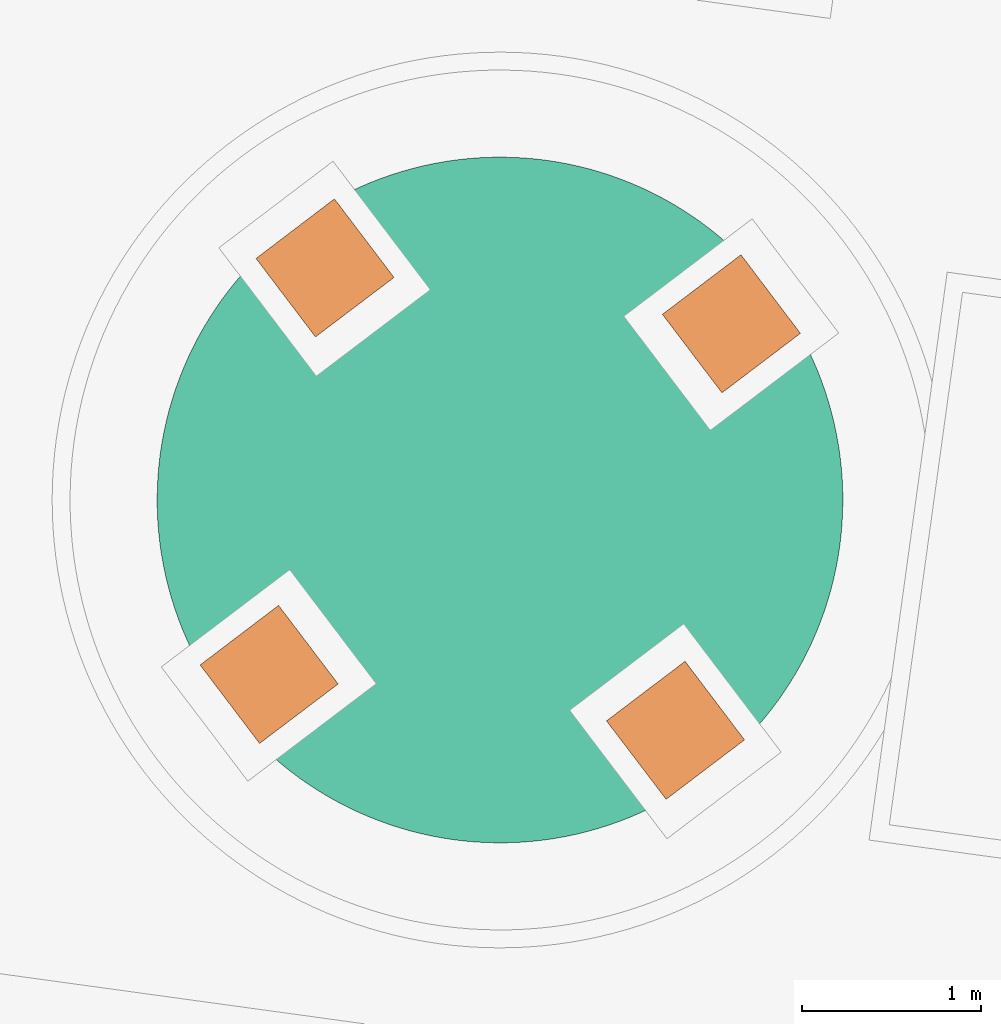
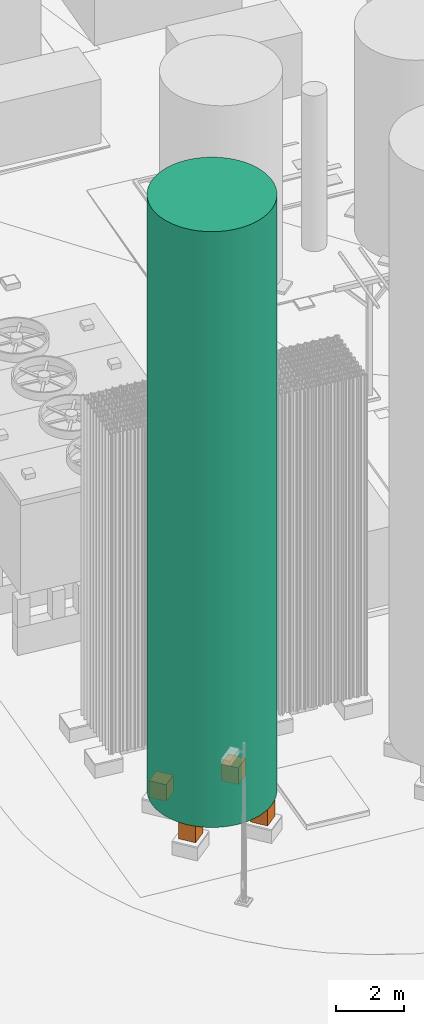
# Not in any storey, part 31 of 75: 4 proxies, 1 tank.
"""IFC4 model written with IfcOpenShell, lengths in metres."""

from ifc_helpers import new_model, si_unit, direction, origin_with_axes, place, context, subcontext, project, spatial, triangles, element, aggregate, save


model = new_model("IFC4")

# Units and contexts
model_context = context("Model", 3, precision=1e-05, world=origin_with_axes(), true_north=direction((0.0, 1.0)))
body_context = subcontext(model_context, "Body", "Model", "MODEL_VIEW")
ifc_project = project(units=[si_unit("AREAUNIT", "SQUARE_METRE"), si_unit("VOLUMEUNIT", "CUBIC_METRE"), si_unit("LENGTHUNIT", "METRE")], contexts=[model_context])

# Site
site_placement = place(None, origin_with_axes())
site = spatial("IfcSite", under=ifc_project, at=site_placement, Name="Parcela industrial Jinhong")

# Tank, proxies
tank_placement = place(site_placement, origin_with_axes())
tank = element("IfcTank", 1, at=tank_placement, inside=site, Name="Depósito de nitrógeno líquido SV1801A · Envolvente cilíndrica del depósito", PredefinedType="STORAGE", context=body_context, shape_type="Tessellation", body=[
    triangles([(38.273147, 32.253326, 23.627), (38.252037, 32.129869, 23.627), (38.263602, 32.191425, 23.627), (38.252037, 32.129869, 2.2), (38.273147, 32.253326, 2.2), (38.263602, 32.191425, 2.2), (38.286138, 32.377899, 23.627), (38.280662, 32.315506, 23.627), (38.280662, 32.315506, 2.2), (38.286138, 32.377899, 2.2), (38.290953, 32.503055, 23.627), (38.289569, 32.440438, 23.627), (38.289569, 32.440438, 2.2), (38.290953, 32.503055, 2.2), (38.287572, 32.628258, 23.627), (38.290287, 32.565684, 23.627), (38.290287, 32.565684, 2.2), (38.287572, 32.628258, 2.2), (38.27601, 32.752972, 23.627), (38.282811, 32.69071, 23.627), (38.282811, 32.69071, 2.2), (38.27601, 32.752972, 2.2), (38.256315, 32.876663, 23.627), (38.267175, 32.814978, 23.627), (38.267175, 32.814978, 2.2), (38.256315, 32.876663, 2.2), (38.228574, 32.9988, 23.627), (38.243444, 32.937958, 23.627), (38.243444, 32.937958, 2.2), (38.228574, 32.9988, 2.2), (38.192903, 33.118862, 23.627), (38.211721, 33.059123, 23.627), (38.211721, 33.059123, 2.2), (38.192903, 33.118862, 2.2), (38.149457, 33.236334, 23.627), (38.172141, 33.177954, 23.627), (38.172141, 33.177954, 2.2), (38.149457, 33.236334, 2.2), (38.09842, 33.350713, 23.627), (38.124874, 33.293941, 23.627), (38.124874, 33.293941, 2.2), (38.09842, 33.350713, 2.2), (38.040012, 33.461509, 23.627), (38.070123, 33.406588, 23.627), (38.070123, 33.406588, 2.2), (38.040012, 33.461509, 2.2), (37.974483, 33.568247, 23.627), (38.008121, 33.515414, 23.627), (38.008121, 33.515414, 2.2), (37.974483, 33.568247, 2.2), (37.902113, 33.670471, 23.627), (37.939134, 33.619951, 23.627), (37.939134, 33.619951, 2.2), (37.902113, 33.670471, 2.2), (37.823212, 33.767743, 23.627), (37.863458, 33.719753, 23.627), (37.863458, 33.719753, 2.2), (37.823212, 33.767743, 2.2), (37.738118, 33.859647, 23.627), (37.781417, 33.814391, 23.627), (37.781417, 33.814391, 2.2), (37.738118, 33.859647, 2.2), (37.647195, 33.945788, 23.627), (37.693361, 33.903462, 23.627), (37.693361, 33.903462, 2.2), (37.647195, 33.945788, 2.2), (37.550833, 34.025799, 23.627), (37.599669, 33.986582, 23.627), (37.599669, 33.986582, 2.2), (37.550833, 34.025799, 2.2), (37.449445, 34.099335, 23.627), (37.500741, 34.063396, 23.627), (37.500741, 34.063396, 2.2), (37.449445, 34.099335, 2.2), (37.343464, 34.166083, 23.627), (37.397001, 34.133576, 23.627), (37.397001, 34.133576, 2.2), (37.343464, 34.166083, 2.2), (37.233345, 34.225757, 23.627), (37.288893, 34.196821, 23.627), (37.288893, 34.196821, 2.2), (37.233345, 34.225757, 2.2), (37.119559, 34.278101, 23.627), (37.17688, 34.25286, 23.627), (37.17688, 34.25286, 2.2), (37.119559, 34.278101, 2.2), (37.002592, 34.32289, 23.627), (37.061442, 34.301452, 23.627), (37.061442, 34.301452, 2.2), (37.002592, 34.32289, 2.2), (36.882947, 34.359934, 23.627), (36.943073, 34.342391, 23.627), (36.943073, 34.342391, 2.2), (36.882947, 34.359934, 2.2), (36.761135, 34.389073, 23.627), (36.82228, 34.3755, 23.627), (36.82228, 34.3755, 2.2), (36.761135, 34.389073, 2.2), (36.637678, 34.410183, 23.627), (36.699579, 34.400638, 23.627), (36.699579, 34.400638, 2.2), (36.637678, 34.410183, 2.2), (36.513105, 34.423174, 23.627), (36.575498, 34.417698, 23.627), (36.575498, 34.417698, 2.2), (36.513105, 34.423174, 2.2), (36.387949, 34.427989, 23.627), (36.450567, 34.426605, 23.627), (36.450567, 34.426605, 2.2), (36.387949, 34.427989, 2.2), (36.262746, 34.424608, 23.627), (36.32532, 34.427323, 23.627), (36.32532, 34.427323, 2.2), (36.262746, 34.424608, 2.2), (36.138032, 34.413046, 23.627), (36.200295, 34.419847, 23.627), (36.200295, 34.419847, 2.2), (36.138032, 34.413046, 2.2), (36.014342, 34.393352, 23.627), (36.076026, 34.404211, 23.627), (36.076026, 34.404211, 2.2), (36.014342, 34.393352, 2.2), (35.892204, 34.36561, 23.627), (35.953046, 34.38048, 23.627), (35.953046, 34.38048, 2.2), (35.892204, 34.36561, 2.2), (35.772142, 34.329939, 23.627), (35.831881, 34.348757, 23.627), (35.831881, 34.348757, 2.2), (35.772142, 34.329939, 2.2), (35.65467, 34.286493, 23.627), (35.713051, 34.309177, 23.627), (35.713051, 34.309177, 2.2), (35.65467, 34.286493, 2.2), (35.540292, 34.235456, 23.627), (35.597063, 34.26191, 23.627), (35.597063, 34.26191, 2.2), (35.540292, 34.235456, 2.2), (35.429496, 34.177048, 23.627), (35.484416, 34.207159, 23.627), (35.484416, 34.207159, 2.2), (35.429496, 34.177048, 2.2), (35.322757, 34.111519, 23.627), (35.37559, 34.145157, 23.627), (35.37559, 34.145157, 2.2), (35.322757, 34.111519, 2.2), (35.220533, 34.039149, 23.627), (35.271053, 34.07617, 23.627), (35.271053, 34.07617, 2.2), (35.220533, 34.039149, 2.2), (35.123261, 33.960248, 23.627), (35.171251, 34.000494, 23.627), (35.171251, 34.000494, 2.2), (35.123261, 33.960248, 2.2), (35.031357, 33.875154, 23.627), (35.076613, 33.918453, 23.627), (35.076613, 33.918453, 2.2), (35.031357, 33.875154, 2.2), (34.945216, 33.784231, 23.627), (34.987543, 33.830397, 23.627), (34.987543, 33.830397, 2.2), (34.945216, 33.784231, 2.2), (34.865206, 33.68787, 23.627), (34.904422, 33.736705, 23.627), (34.904422, 33.736705, 2.2), (34.865206, 33.68787, 2.2), (34.791669, 33.586481, 23.627), (34.827608, 33.637777, 23.627), (34.827608, 33.637777, 2.2), (34.791669, 33.586481, 2.2), (34.724921, 33.480501, 23.627), (34.757428, 33.534037, 23.627), (34.757428, 33.534037, 2.2), (34.724921, 33.480501, 2.2), (34.665247, 33.370381, 23.627), (34.694183, 33.425929, 23.627), (34.694183, 33.425929, 2.2), (34.665247, 33.370381, 2.2), (34.612904, 33.256595, 23.627), (34.638145, 33.313916, 23.627), (34.638145, 33.313916, 2.2), (34.612904, 33.256595, 2.2), (34.568114, 33.139628, 23.627), (34.589552, 33.198478, 23.627), (34.589552, 33.198478, 2.2), (34.568114, 33.139628, 2.2), (34.53107, 33.019983, 23.627), (34.548613, 33.080109, 23.627), (34.548613, 33.080109, 2.2), (34.53107, 33.019983, 2.2), (34.501931, 32.898171, 23.627), (34.515504, 32.959316, 23.627), (34.515504, 32.959316, 2.2), (34.501931, 32.898171, 2.2), (34.480821, 32.774715, 23.627), (34.490366, 32.836616, 23.627), (34.490366, 32.836616, 2.2), (34.480821, 32.774715, 2.2), (34.467831, 32.650141, 23.627), (34.473306, 32.712534, 23.627), (34.473306, 32.712534, 2.2), (34.467831, 32.650141, 2.2), (34.463015, 32.524985, 23.627), (34.464399, 32.587603, 23.627), (34.464399, 32.587603, 2.2), (34.463015, 32.524985, 2.2), (34.466396, 32.399782, 23.627), (34.463681, 32.462356, 23.627), (34.463681, 32.462356, 2.2), (34.466396, 32.399782, 2.2), (34.477958, 32.275069, 23.627), (34.471157, 32.337331, 23.627), (34.471157, 32.337331, 2.2), (34.477958, 32.275069, 2.2), (34.497653, 32.151378, 23.627), (34.486794, 32.213062, 23.627), (34.486794, 32.213062, 2.2), (34.497653, 32.151378, 2.2), (34.525394, 32.02924, 23.627), (34.510524, 32.090082, 23.627), (34.510524, 32.090082, 2.2), (34.525394, 32.02924, 2.2), (34.561065, 31.909178, 23.627), (34.542247, 31.968917, 23.627), (34.542247, 31.968917, 2.2), (34.561065, 31.909178, 2.2), (34.604511, 31.791707, 23.627), (34.581827, 31.850087, 23.627), (34.581827, 31.850087, 2.2), (34.604511, 31.791707, 2.2), (34.655548, 31.677328, 23.627), (34.629094, 31.7341, 23.627), (34.629094, 31.7341, 2.2), (34.655548, 31.677328, 2.2), (34.713956, 31.566532, 23.627), (34.683846, 31.621452, 23.627), (34.683846, 31.621452, 2.2), (34.713956, 31.566532, 2.2), (34.779485, 31.459793, 23.627), (34.745847, 31.512627, 23.627), (34.745847, 31.512627, 2.2), (34.779485, 31.459793, 2.2), (34.851856, 31.357569, 23.627), (34.814834, 31.408089, 23.627), (34.814834, 31.408089, 2.2), (34.851856, 31.357569, 2.2), (34.930756, 31.260297, 23.627), (34.89051, 31.308288, 23.627), (34.89051, 31.308288, 2.2), (34.930756, 31.260297, 2.2), (35.01585, 31.168394, 23.627), (34.972551, 31.213649, 23.627), (34.972551, 31.213649, 2.2), (35.01585, 31.168394, 2.2), (35.106773, 31.082252, 23.627), (35.060607, 31.124579, 23.627), (35.060607, 31.124579, 2.2), (35.106773, 31.082252, 2.2), (35.203135, 31.002242, 23.627), (35.154299, 31.041459, 23.627), (35.154299, 31.041459, 2.2), (35.203135, 31.002242, 2.2), (35.304523, 30.928705, 23.627), (35.253227, 30.964644, 23.627), (35.253227, 30.964644, 2.2), (35.304523, 30.928705, 2.2), (35.410504, 30.861957, 23.627), (35.356967, 30.894464, 23.627), (35.356967, 30.894464, 2.2), (35.410504, 30.861957, 2.2), (35.520623, 30.802284, 23.627), (35.465075, 30.83122, 23.627), (35.465075, 30.83122, 2.2), (35.520623, 30.802284, 2.2), (35.63441, 30.74994, 23.627), (35.577088, 30.775181, 23.627), (35.577088, 30.775181, 2.2), (35.63441, 30.74994, 2.2), (35.751376, 30.70515, 23.627), (35.692526, 30.726588, 23.627), (35.692526, 30.726588, 2.2), (35.751376, 30.70515, 2.2), (35.871021, 30.668107, 23.627), (35.810895, 30.68565, 23.627), (35.810895, 30.68565, 2.2), (35.871021, 30.668107, 2.2), (35.992833, 30.638967, 23.627), (35.931689, 30.65254, 23.627), (35.931689, 30.65254, 2.2), (35.992833, 30.638967, 2.2), (36.11629, 30.617857, 23.627), (36.054389, 30.627402, 23.627), (36.054389, 30.627402, 2.2), (36.11629, 30.617857, 2.2), (36.240863, 30.604867, 23.627), (36.17847, 30.610343, 23.627), (36.17847, 30.610343, 2.2), (36.240863, 30.604867, 2.2), (36.366019, 30.600052, 23.627), (36.303402, 30.601435, 23.627), (36.303402, 30.601435, 2.2), (36.366019, 30.600052, 2.2), (36.491222, 30.603432, 23.627), (36.428648, 30.600718, 23.627), (36.428648, 30.600718, 2.2), (36.491222, 30.603432, 2.2), (36.615936, 30.614995, 23.627), (36.553673, 30.608193, 23.627), (36.553673, 30.608193, 2.2), (36.615936, 30.614995, 2.2), (36.739626, 30.634689, 23.627), (36.677942, 30.62383, 23.627), (36.677942, 30.62383, 2.2), (36.739626, 30.634689, 2.2), (36.861764, 30.662431, 23.627), (36.800922, 30.64756, 23.627), (36.800922, 30.64756, 2.2), (36.861764, 30.662431, 2.2), (36.981826, 30.698101, 23.627), (36.922087, 30.679284, 23.627), (36.922087, 30.679284, 2.2), (36.981826, 30.698101, 2.2), (37.099298, 30.741548, 23.627), (37.040917, 30.718863, 23.627), (37.040917, 30.718863, 2.2), (37.099298, 30.741548, 2.2), (37.213676, 30.792584, 23.627), (37.156905, 30.76613, 23.627), (37.156905, 30.76613, 2.2), (37.213676, 30.792584, 2.2), (37.324472, 30.850992, 23.627), (37.269552, 30.820882, 23.627), (37.269552, 30.820882, 2.2), (37.324472, 30.850992, 2.2), (37.431211, 30.916522, 23.627), (37.378378, 30.882884, 23.627), (37.378378, 30.882884, 2.2), (37.431211, 30.916522, 2.2), (37.533435, 30.988892, 23.627), (37.482915, 30.95187, 23.627), (37.482915, 30.95187, 2.2), (37.533435, 30.988892, 2.2), (37.630707, 31.067793, 23.627), (37.582717, 31.027546, 23.627), (37.582717, 31.027546, 2.2), (37.630707, 31.067793, 2.2), (37.722611, 31.152887, 23.627), (37.677355, 31.109588, 23.627), (37.677355, 31.109588, 2.2), (37.722611, 31.152887, 2.2), (37.808752, 31.243809, 23.627), (37.766425, 31.197643, 23.627), (37.766425, 31.197643, 2.2), (37.808752, 31.243809, 2.2), (37.888762, 31.340171, 23.627), (37.849546, 31.291335, 23.627), (37.849546, 31.291335, 2.2), (37.888762, 31.340171, 2.2), (37.962299, 31.441559, 23.627), (37.92636, 31.390263, 23.627), (37.92636, 31.390263, 2.2), (37.962299, 31.441559, 2.2), (38.029047, 31.54754, 23.627), (37.99654, 31.494003, 23.627), (37.99654, 31.494003, 2.2), (38.029047, 31.54754, 2.2), (38.088721, 31.657659, 23.627), (38.059785, 31.602111, 23.627), (38.059785, 31.602111, 2.2), (38.088721, 31.657659, 2.2), (38.141064, 31.771446, 23.627), (38.115823, 31.714124, 23.627), (38.115823, 31.714124, 2.2), (38.141064, 31.771446, 2.2), (38.185854, 31.888412, 23.627), (38.164416, 31.829562, 23.627), (38.164416, 31.829562, 2.2), (38.185854, 31.888412, 2.2), (38.222898, 32.008057, 23.627), (38.205355, 31.947932, 23.627), (38.205355, 31.947932, 2.2), (38.222898, 32.008057, 2.2), (38.238464, 32.068725, 23.627), (38.238464, 32.068725, 2.2)], [[1, 2, 3], [4, 5, 6], [8, 7, 1], [9, 5, 10], [12, 11, 7], [13, 10, 14], [16, 15, 11], [17, 14, 18], [20, 19, 15], [21, 18, 22], [24, 23, 19], [25, 22, 26], [28, 27, 23], [29, 26, 30], [32, 31, 27], [33, 30, 34], [36, 35, 31], [37, 34, 38], [40, 39, 35], [41, 38, 42], [44, 43, 39], [45, 42, 46], [48, 47, 43], [49, 46, 50], [52, 51, 47], [53, 50, 54], [56, 55, 51], [57, 54, 58], [60, 59, 55], [61, 58, 62], [64, 63, 59], [65, 62, 66], [68, 67, 63], [69, 66, 70], [72, 71, 67], [73, 70, 74], [76, 75, 71], [77, 74, 78], [80, 79, 75], [81, 78, 82], [84, 83, 79], [85, 82, 86], [88, 87, 83], [89, 86, 90], [92, 91, 87], [93, 90, 94], [96, 95, 91], [97, 94, 98], [100, 99, 95], [101, 98, 102], [104, 103, 99], [105, 102, 106], [108, 107, 103], [109, 106, 110], [112, 111, 107], [113, 110, 114], [116, 115, 111], [117, 114, 118], [120, 119, 115], [121, 118, 122], [124, 123, 119], [125, 122, 126], [128, 127, 123], [129, 126, 130], [132, 131, 127], [133, 130, 134], [136, 135, 131], [137, 134, 138], [140, 139, 135], [141, 138, 142], [144, 143, 139], [145, 142, 146], [148, 147, 143], [149, 146, 150], [152, 151, 147], [153, 150, 154], [156, 155, 151], [157, 154, 158], [160, 159, 155], [161, 158, 162], [164, 163, 159], [165, 162, 166], [168, 167, 163], [169, 166, 170], [172, 171, 167], [173, 170, 174], [176, 175, 171], [177, 174, 178], [180, 179, 175], [181, 178, 182], [184, 183, 179], [185, 182, 186], [188, 187, 183], [189, 186, 190], [192, 191, 187], [193, 190, 194], [196, 195, 191], [197, 194, 198], [200, 199, 195], [201, 198, 202], [204, 203, 199], [205, 202, 206], [208, 207, 203], [209, 206, 210], [212, 211, 207], [213, 210, 214], [216, 215, 211], [217, 214, 218], [220, 219, 215], [221, 218, 222], [224, 223, 219], [225, 222, 226], [228, 227, 223], [229, 226, 230], [232, 231, 227], [233, 230, 234], [236, 235, 231], [237, 234, 238], [240, 239, 235], [241, 238, 242], [244, 243, 239], [245, 242, 246], [248, 247, 243], [249, 246, 250], [252, 251, 247], [253, 250, 254], [256, 255, 251], [257, 254, 258], [260, 259, 255], [261, 258, 262], [264, 263, 259], [265, 262, 266], [268, 267, 263], [269, 266, 270], [272, 271, 267], [273, 270, 274], [276, 275, 271], [277, 274, 278], [280, 279, 275], [281, 278, 282], [284, 283, 279], [285, 282, 286], [288, 287, 283], [289, 286, 290], [292, 291, 287], [293, 290, 294], [296, 295, 291], [297, 294, 298], [300, 299, 295], [301, 298, 302], [304, 303, 299], [305, 302, 306], [308, 307, 303], [309, 306, 310], [312, 311, 307], [313, 310, 314], [316, 315, 311], [317, 314, 318], [320, 319, 315], [321, 318, 322], [324, 323, 319], [325, 322, 326], [328, 327, 323], [329, 326, 330], [332, 331, 327], [333, 330, 334], [336, 335, 331], [337, 334, 338], [340, 339, 335], [341, 338, 342], [344, 343, 339], [345, 342, 346], [348, 347, 343], [349, 346, 350], [352, 351, 347], [353, 350, 354], [356, 355, 351], [357, 354, 358], [360, 359, 355], [361, 358, 362], [364, 363, 359], [365, 362, 366], [368, 367, 363], [369, 366, 370], [372, 371, 367], [373, 370, 374], [376, 375, 371], [377, 374, 378], [380, 379, 375], [381, 378, 382], [383, 2, 379], [382, 4, 384], [7, 2, 1], [5, 4, 10], [11, 15, 7], [14, 10, 18], [19, 23, 15], [22, 18, 26], [27, 31, 23], [30, 26, 34], [35, 39, 31], [38, 34, 42], [43, 47, 39], [46, 42, 50], [51, 55, 47], [54, 50, 58], [59, 63, 55], [62, 58, 66], [67, 71, 63], [70, 66, 74], [75, 79, 71], [78, 74, 82], [83, 87, 79], [86, 82, 90], [91, 95, 87], [94, 90, 98], [99, 103, 95], [102, 98, 106], [103, 107, 111], [114, 110, 106], [115, 119, 111], [118, 114, 122], [123, 127, 119], [126, 122, 130], [131, 135, 127], [134, 130, 138], [139, 143, 135], [142, 138, 146], [147, 151, 143], [150, 146, 154], [155, 159, 151], [158, 154, 162], [163, 167, 159], [166, 162, 170], [171, 175, 167], [174, 170, 178], [179, 183, 175], [182, 178, 186], [187, 191, 183], [190, 186, 194], [195, 199, 191], [198, 194, 202], [203, 207, 199], [206, 202, 210], [211, 215, 207], [214, 210, 218], [219, 223, 215], [222, 218, 226], [227, 231, 223], [230, 226, 234], [235, 239, 231], [238, 234, 242], [243, 247, 239], [246, 242, 250], [251, 255, 247], [254, 250, 258], [259, 263, 255], [262, 258, 266], [267, 271, 263], [270, 266, 274], [275, 279, 271], [278, 274, 282], [283, 287, 279], [286, 282, 290], [291, 295, 287], [294, 290, 298], [299, 303, 295], [302, 298, 306], [307, 311, 303], [310, 306, 314], [315, 319, 311], [318, 314, 322], [323, 327, 319], [326, 322, 330], [331, 335, 327], [334, 330, 338], [339, 343, 335], [342, 338, 346], [347, 351, 343], [350, 346, 354], [355, 359, 351], [358, 354, 362], [363, 367, 359], [366, 362, 370], [371, 375, 367], [374, 370, 378], [379, 2, 375], [378, 4, 382], [7, 15, 2], [10, 4, 18], [23, 31, 15], [26, 18, 34], [39, 47, 31], [42, 34, 50], [55, 63, 47], [58, 50, 66], [71, 79, 63], [74, 66, 82], [87, 95, 79], [90, 82, 98], [95, 103, 111], [114, 106, 98], [119, 127, 111], [122, 114, 130], [135, 143, 127], [138, 130, 146], [151, 159, 143], [154, 146, 162], [167, 175, 159], [170, 162, 178], [183, 191, 175], [186, 178, 194], [199, 207, 191], [202, 194, 210], [215, 223, 207], [218, 210, 226], [231, 239, 223], [234, 226, 242], [247, 255, 239], [250, 242, 258], [263, 271, 255], [266, 258, 274], [279, 287, 271], [282, 274, 290], [295, 303, 287], [298, 290, 306], [311, 319, 303], [314, 306, 322], [327, 335, 319], [330, 322, 338], [343, 351, 335], [346, 338, 354], [359, 367, 351], [362, 354, 370], [375, 2, 367], [370, 4, 378], [15, 31, 2], [18, 4, 34], [47, 63, 31], [50, 34, 66], [79, 95, 63], [82, 66, 98], [95, 111, 127], [130, 114, 98], [143, 159, 127], [146, 130, 162], [175, 191, 159], [178, 162, 194], [207, 223, 191], [210, 194, 226], [239, 255, 223], [242, 226, 258], [271, 287, 255], [274, 258, 290], [303, 319, 287], [306, 290, 322], [335, 351, 319], [338, 322, 354], [367, 2, 351], [354, 4, 370], [31, 63, 2], [34, 4, 66], [63, 95, 127], [130, 98, 66], [127, 159, 191], [194, 162, 130], [191, 223, 255], [258, 226, 194], [287, 319, 255], [290, 258, 322], [351, 2, 319], [322, 4, 354], [2, 63, 127], [130, 66, 4], [127, 191, 255], [258, 194, 130], [319, 2, 255], [258, 4, 322], [2, 127, 255], [258, 130, 4], [5, 9, 8], [5, 8, 1], [7, 9, 10], [7, 8, 9], [10, 13, 12], [10, 12, 7], [11, 13, 14], [11, 12, 13], [14, 17, 16], [14, 16, 11], [15, 17, 18], [15, 16, 17], [18, 21, 20], [18, 20, 15], [19, 21, 22], [19, 20, 21], [22, 25, 24], [22, 24, 19], [23, 25, 26], [23, 24, 25], [26, 29, 28], [26, 28, 23], [27, 29, 30], [27, 28, 29], [30, 33, 32], [30, 32, 27], [31, 33, 34], [31, 32, 33], [34, 37, 36], [34, 36, 31], [35, 37, 38], [35, 36, 37], [38, 41, 40], [38, 40, 35], [39, 41, 42], [39, 40, 41], [42, 45, 44], [42, 44, 39], [43, 45, 46], [43, 44, 45], [46, 49, 48], [46, 48, 43], [47, 49, 50], [47, 48, 49], [50, 53, 52], [50, 52, 47], [51, 53, 54], [51, 52, 53], [54, 57, 56], [54, 56, 51], [55, 57, 58], [55, 56, 57], [58, 61, 60], [58, 60, 55], [59, 61, 62], [59, 60, 61], [64, 62, 65], [64, 59, 62], [63, 65, 66], [63, 64, 65], [68, 66, 69], [68, 63, 66], [67, 69, 70], [67, 68, 69], [72, 70, 73], [72, 67, 70], [71, 73, 74], [71, 72, 73], [76, 74, 77], [76, 71, 74], [75, 77, 78], [75, 76, 77], [80, 78, 81], [80, 75, 78], [79, 81, 82], [79, 80, 81], [84, 82, 85], [84, 79, 82], [83, 85, 86], [83, 84, 85], [88, 86, 89], [88, 83, 86], [87, 89, 90], [87, 88, 89], [92, 90, 93], [92, 87, 90], [91, 93, 94], [91, 92, 93], [96, 94, 97], [96, 91, 94], [95, 97, 98], [95, 96, 97], [100, 98, 101], [100, 95, 98], [99, 101, 102], [99, 100, 101], [104, 102, 105], [104, 99, 102], [103, 105, 106], [103, 104, 105], [108, 106, 109], [108, 103, 106], [107, 109, 110], [107, 108, 109], [112, 110, 113], [112, 107, 110], [111, 113, 114], [111, 112, 113], [116, 114, 117], [116, 111, 114], [115, 117, 118], [115, 116, 117], [120, 118, 121], [120, 115, 118], [119, 121, 122], [119, 120, 121], [124, 122, 125], [124, 119, 122], [123, 125, 126], [123, 124, 125], [128, 126, 129], [128, 123, 126], [127, 129, 130], [127, 128, 129], [132, 130, 133], [132, 127, 130], [131, 133, 134], [131, 132, 133], [136, 134, 137], [136, 131, 134], [135, 137, 138], [135, 136, 137], [140, 138, 141], [140, 135, 138], [139, 141, 142], [139, 140, 141], [144, 142, 145], [144, 139, 142], [143, 145, 146], [143, 144, 145], [148, 146, 149], [148, 143, 146], [147, 149, 150], [147, 148, 149], [152, 150, 153], [152, 147, 150], [151, 153, 154], [151, 152, 153], [156, 154, 157], [156, 151, 154], [155, 157, 158], [155, 156, 157], [158, 161, 160], [158, 160, 155], [159, 161, 162], [159, 160, 161], [162, 165, 164], [162, 164, 159], [163, 165, 166], [163, 164, 165], [166, 169, 168], [166, 168, 163], [167, 169, 170], [167, 168, 169], [170, 173, 172], [170, 172, 167], [171, 173, 174], [171, 172, 173], [174, 177, 176], [174, 176, 171], [175, 177, 178], [175, 176, 177], [178, 181, 180], [178, 180, 175], [179, 181, 182], [179, 180, 181], [182, 185, 184], [182, 184, 179], [183, 185, 186], [183, 184, 185], [186, 189, 188], [186, 188, 183], [187, 189, 190], [187, 188, 189], [190, 193, 192], [190, 192, 187], [191, 193, 194], [191, 192, 193], [194, 197, 196], [194, 196, 191], [195, 197, 198], [195, 196, 197], [198, 201, 200], [198, 200, 195], [199, 201, 202], [199, 200, 201], [202, 205, 204], [202, 204, 199], [203, 205, 206], [203, 204, 205], [206, 209, 208], [206, 208, 203], [207, 209, 210], [207, 208, 209], [210, 213, 212], [210, 212, 207], [211, 213, 214], [211, 212, 213], [214, 217, 216], [214, 216, 211], [215, 217, 218], [215, 216, 217], [218, 221, 220], [218, 220, 215], [219, 221, 222], [219, 220, 221], [222, 225, 224], [222, 224, 219], [223, 225, 226], [223, 224, 225], [226, 229, 228], [226, 228, 223], [227, 229, 230], [227, 228, 229], [230, 233, 232], [230, 232, 227], [231, 233, 234], [231, 232, 233], [234, 237, 236], [234, 236, 231], [235, 237, 238], [235, 236, 237], [238, 241, 240], [238, 240, 235], [239, 241, 242], [239, 240, 241], [242, 245, 244], [242, 244, 239], [243, 245, 246], [243, 244, 245], [246, 249, 248], [246, 248, 243], [247, 249, 250], [247, 248, 249], [250, 253, 252], [250, 252, 247], [251, 253, 254], [251, 252, 253], [256, 254, 257], [256, 251, 254], [255, 257, 258], [255, 256, 257], [260, 258, 261], [260, 255, 258], [259, 261, 262], [259, 260, 261], [264, 262, 265], [264, 259, 262], [263, 265, 266], [263, 264, 265], [268, 266, 269], [268, 263, 266], [267, 269, 270], [267, 268, 269], [272, 270, 273], [272, 267, 270], [271, 273, 274], [271, 272, 273], [276, 274, 277], [276, 271, 274], [275, 277, 278], [275, 276, 277], [280, 278, 281], [280, 275, 278], [279, 281, 282], [279, 280, 281], [284, 282, 285], [284, 279, 282], [283, 285, 286], [283, 284, 285], [288, 286, 289], [288, 283, 286], [287, 289, 290], [287, 288, 289], [292, 290, 293], [292, 287, 290], [291, 293, 294], [291, 292, 293], [296, 294, 297], [296, 291, 294], [295, 297, 298], [295, 296, 297], [300, 298, 301], [300, 295, 298], [299, 301, 302], [299, 300, 301], [304, 302, 305], [304, 299, 302], [303, 305, 306], [303, 304, 305], [308, 306, 309], [308, 303, 306], [307, 309, 310], [307, 308, 309], [312, 310, 313], [312, 307, 310], [311, 313, 314], [311, 312, 313], [316, 314, 317], [316, 311, 314], [315, 317, 318], [315, 316, 317], [320, 318, 321], [320, 315, 318], [319, 321, 322], [319, 320, 321], [324, 322, 325], [324, 319, 322], [323, 325, 326], [323, 324, 325], [328, 326, 329], [328, 323, 326], [327, 329, 330], [327, 328, 329], [332, 330, 333], [332, 327, 330], [331, 333, 334], [331, 332, 333], [336, 334, 337], [336, 331, 334], [335, 337, 338], [335, 336, 337], [340, 338, 341], [340, 335, 338], [339, 341, 342], [339, 340, 341], [344, 342, 345], [344, 339, 342], [343, 345, 346], [343, 344, 345], [348, 346, 349], [348, 343, 346], [347, 349, 350], [347, 348, 349], [350, 353, 352], [350, 352, 347], [351, 353, 354], [351, 352, 353], [354, 357, 356], [354, 356, 351], [355, 357, 358], [355, 356, 357], [358, 361, 360], [358, 360, 355], [359, 361, 362], [359, 360, 361], [362, 365, 364], [362, 364, 359], [363, 365, 366], [363, 364, 365], [366, 369, 368], [366, 368, 363], [367, 369, 370], [367, 368, 369], [370, 373, 372], [370, 372, 367], [371, 373, 374], [371, 372, 373], [374, 377, 376], [374, 376, 371], [375, 377, 378], [375, 376, 377], [378, 381, 380], [378, 380, 375], [379, 381, 382], [379, 380, 381], [382, 384, 383], [382, 383, 379], [384, 4, 2], [384, 2, 383], [3, 4, 6], [4, 3, 2], [6, 5, 1], [1, 3, 6]], closed=True),
])
proxy_1_placement = place(tank_placement, origin_with_axes())
proxy_1 = element("IfcBuildingElementProxy", 2, at=proxy_1_placement, Name="Depósito de nitrógeno líquido SV1801A · Envolvente de apoyo 1 · huella real en planta", context=body_context, shape_type="Tessellation", body=[
    triangles([(37.722206, 33.882962, 2.2), (37.283526, 33.550326, 2.2), (38.053984, 33.4444, 2.2), (37.283526, 33.550326, 1.6), (37.722206, 33.882962, 1.6), (38.053984, 33.4444, 1.6), (37.616279, 33.112503, 2.2), (37.616279, 33.112503, 1.6)], [[1, 2, 3], [4, 5, 6], [3, 2, 7], [8, 4, 6], [4, 8, 7], [4, 7, 2], [8, 6, 3], [8, 3, 7], [6, 5, 1], [1, 3, 6], [5, 4, 2], [5, 2, 1]], closed=True),
])
proxy_2_placement = place(tank_placement, origin_with_axes())
proxy_2 = element("IfcBuildingElementProxy", 3, at=proxy_2_placement, Name="Depósito de nitrógeno líquido SV1801A · Envolvente de apoyo 2 · huella real en planta", context=body_context, shape_type="Tessellation", body=[
    triangles([(37.410199, 31.613579, 2.2), (37.304273, 30.843121, 2.2), (37.741978, 31.175017, 2.2), (37.410199, 31.613579, 1.6), (37.741978, 31.175017, 1.6), (37.304273, 30.843121, 1.6), (36.971519, 31.280944, 2.2), (36.971519, 31.280944, 1.6)], [[1, 2, 3], [4, 5, 6], [2, 1, 7], [6, 8, 4], [7, 4, 8], [7, 1, 4], [8, 6, 2], [8, 2, 7], [6, 5, 3], [6, 3, 2], [5, 4, 1], [1, 3, 5]], closed=True),
])
proxy_3_placement = place(tank_placement, origin_with_axes())
proxy_3 = element("IfcBuildingElementProxy", 4, at=proxy_3_placement, Name="Depósito de nitrógeno líquido SV1801A · Envolvente de apoyo 3 · huella real en planta", context=body_context, shape_type="Tessellation", body=[
    triangles([(35.452823, 34.194968, 2.2), (35.015, 33.862215, 2.2), (35.785459, 33.756288, 2.2), (35.015, 33.862215, 1.6), (35.452823, 34.194968, 1.6), (35.785459, 33.756288, 1.6), (35.346897, 33.42451, 2.2), (35.346897, 33.42451, 1.6)], [[1, 2, 3], [4, 5, 6], [3, 2, 7], [8, 4, 6], [4, 8, 7], [4, 7, 2], [8, 6, 3], [8, 3, 7], [6, 5, 1], [1, 3, 6], [5, 4, 2], [5, 2, 1]], closed=True),
])
proxy_4_placement = place(tank_placement, origin_with_axes())
proxy_4 = element("IfcBuildingElementProxy", 5, at=proxy_4_placement, Name="Depósito de nitrógeno líquido SV1801A · Envolvente de apoyo 4 · huella real en planta", context=body_context, shape_type="Tessellation", body=[
    triangles([(35.473453, 31.486906, 2.2), (34.702994, 31.592832, 2.2), (35.03489, 31.155127, 2.2), (34.702994, 31.592832, 1.6), (35.473453, 31.486906, 1.6), (35.03489, 31.155127, 1.6), (35.140817, 31.925586, 2.2), (35.140817, 31.925586, 1.6)], [[1, 2, 3], [4, 5, 6], [1, 7, 2], [5, 4, 8], [5, 8, 7], [5, 7, 1], [8, 4, 2], [8, 2, 7], [3, 4, 6], [4, 3, 2], [6, 5, 1], [1, 3, 6]], closed=True),
])
aggregate(tank, [proxy_1, proxy_2, proxy_3, proxy_4])

save(model, "model.ifc")
